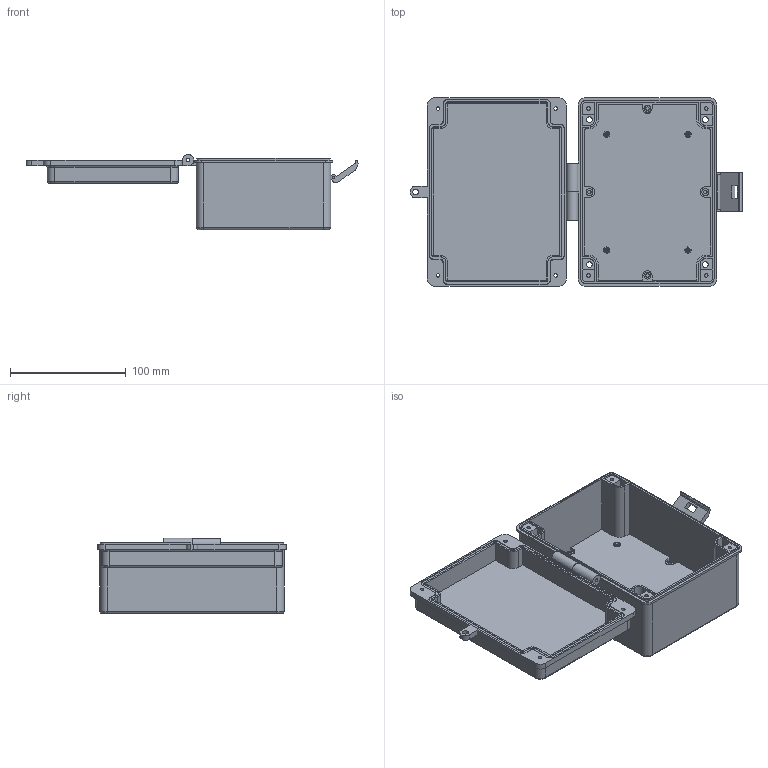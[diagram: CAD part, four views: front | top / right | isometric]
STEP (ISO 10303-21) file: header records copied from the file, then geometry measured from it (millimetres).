
FILE_DESCRIPTION(/* description */ (''),/* implementation_level */ '2;1');
FILE_NAME(/* name */ 'box v12.step',/* time_stamp */ '2024-10-04T00:38:38-03:00',/* author */ (''),/* organization */ (''),/* preprocessor_version */ 'ST-DEVELOPER v20',/* originating_system */ 'Autodesk Translation Framework v13.20.0.188',/* authorisation */ '');
FILE_SCHEMA (('AUTOMOTIVE_DESIGN { 1 0 10303 214 3 1 1 }'));
Length unit declared in the file: millimetre
Products named in the file (7): box; Component1; Component2; Component3; Component4; Component5; M3x8
Assembly tree (9 placements, depth 2):
  box
    Component1
    Component2
    Component3
    Component4
    Component5
    M3x8  x4
Bounding box: 286.52 x 162.8 x 65 mm (x, y, z)
Volume: 255104.8 mm3; surface area: 216287.6 mm2
Topology: 9 solids, 9 shells, 707 faces, 1861 edges, 1200 vertices
Faces by surface type: cylinder 318, plane 309, cone 52, torus 20, bspline 8
Full cylindrical faces by diameter (mm): 2 x4, 2.5 x60, 3 x78, 5 x5, 5.3 x4, 6 x12
Entity records: 18675 total; most frequent: CARTESIAN_POINT 6285, DIRECTION 2581, ORIENTED_EDGE 2508, EDGE_CURVE 1254, AXIS2_PLACEMENT_3D 909, VERTEX_POINT 822, LINE 763, VECTOR 763
